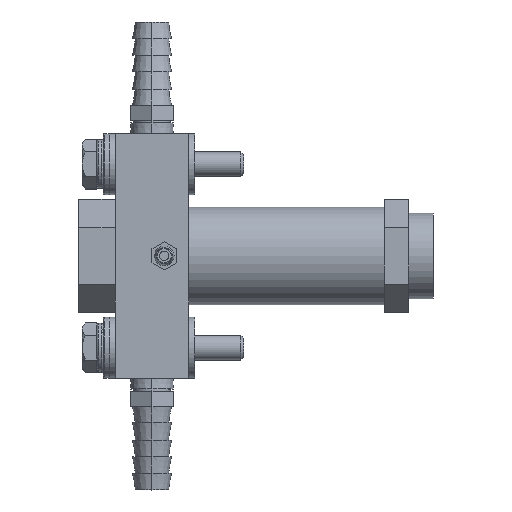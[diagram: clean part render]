
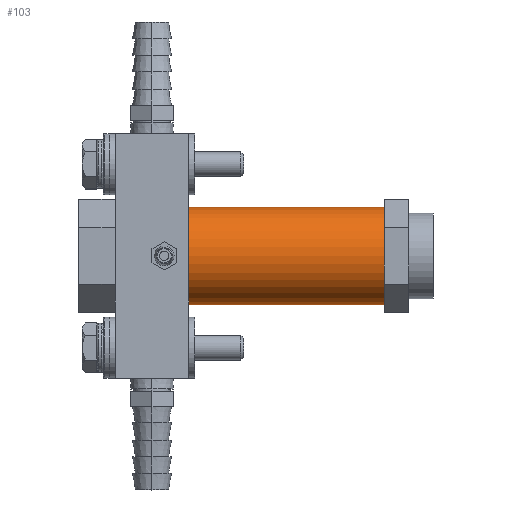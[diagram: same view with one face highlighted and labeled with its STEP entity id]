
A CAD part, top view. The second image highlights one B-rep face of the part: STEP entity #103.
In plain terms, the highlighted cylindrical face has radius 12.7 mm (diameter 25.4 mm), a partial arc.
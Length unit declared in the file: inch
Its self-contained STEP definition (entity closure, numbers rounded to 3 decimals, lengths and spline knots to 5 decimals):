
#33=CARTESIAN_POINT('',(-0.5,0.,0.));
#34=DIRECTION('',(1.,0.,0.));
#35=DIRECTION('',(0.,1.,0.));
#36=AXIS2_PLACEMENT_3D('',#33,#34,#35);
#38=DIRECTION('',(1.,0.,0.));
#39=VECTOR('',#38,2.);
#40=CARTESIAN_POINT('',(-2.5,-0.5,0.));
#41=LINE('',#40,#39);
#42=DIRECTION('',(1.,0.,0.));
#43=VECTOR('',#42,2.);
#44=CARTESIAN_POINT('',(-2.5,0.5,0.));
#45=LINE('',#44,#43);
#46=CARTESIAN_POINT('',(-2.5,0.,0.));
#47=DIRECTION('',(-1.,0.,0.));
#48=DIRECTION('',(0.,-1.,0.));
#49=AXIS2_PLACEMENT_3D('',#46,#47,#48);
#56=CARTESIAN_POINT('',(-2.5,0.5,0.));
#57=CARTESIAN_POINT('',(-0.5,0.5,0.));
#58=VERTEX_POINT('',#56);
#59=VERTEX_POINT('',#57);
#60=CARTESIAN_POINT('',(-2.5,-0.5,0.));
#61=CARTESIAN_POINT('',(-0.5,-0.5,0.));
#62=VERTEX_POINT('',#60);
#63=VERTEX_POINT('',#61);
#91=CARTESIAN_POINT('',(-2.5,0.,0.));
#92=DIRECTION('',(1.,0.,0.));
#93=DIRECTION('',(0.,-1.,0.));
#94=AXIS2_PLACEMENT_3D('',#91,#92,#93);
#95=CYLINDRICAL_SURFACE('',#94,0.5);
#96=ORIENTED_EDGE('',*,*,#71,.T.);
#97=ORIENTED_EDGE('',*,*,#86,.F.);
#99=ORIENTED_EDGE('',*,*,#98,.T.);
#100=ORIENTED_EDGE('',*,*,#82,.T.);
#101=EDGE_LOOP('',(#96,#97,#99,#100));
#102=FACE_OUTER_BOUND('',#101,.F.);
#37=CIRCLE('',#36,0.5);
#50=CIRCLE('',#49,0.5);
#71=EDGE_CURVE('',#59,#63,#37,.T.);
#82=EDGE_CURVE('',#58,#59,#45,.T.);
#86=EDGE_CURVE('',#62,#63,#41,.T.);
#98=EDGE_CURVE('',#62,#58,#50,.T.);
#103=ADVANCED_FACE('',(#102),#95,.T.);
